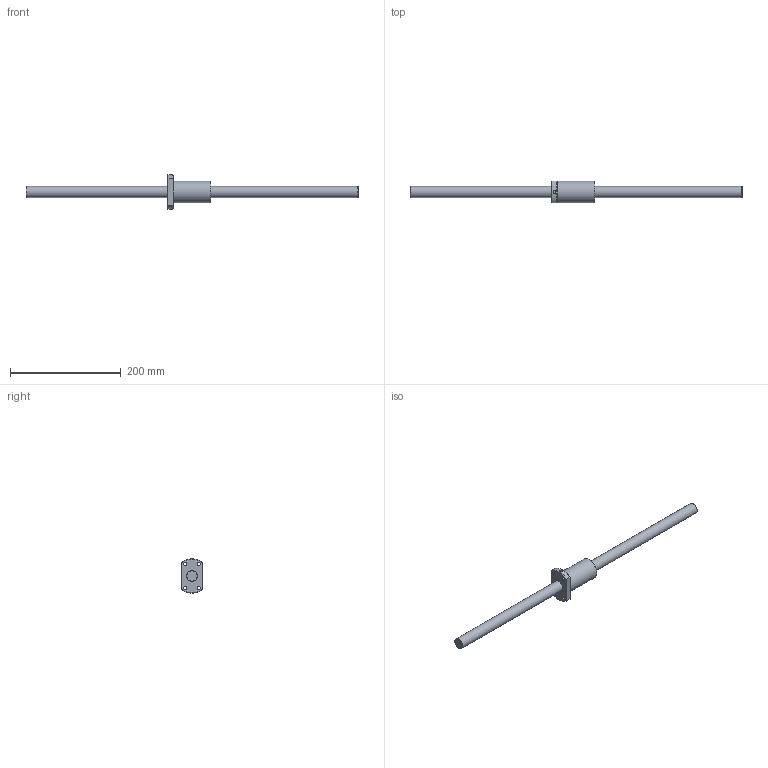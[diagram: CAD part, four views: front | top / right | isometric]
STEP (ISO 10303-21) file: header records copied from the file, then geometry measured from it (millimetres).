
FILE_DESCRIPTION((''),'2;1');
FILE_NAME('D:\製品 (図面)\カタログ用3D\ネジ関連\STEP形式\RBSDA\RBSDA2020-0600.stp','2010-06-02T14:40:15',('Tsuchiya'),(''),'Autodesk Inventor 10','Autodesk Inventor 10','');
FILE_SCHEMA(('AUTOMOTIVE_DESIGN { 1 0 10303 214 1 1 1 1 }'));
Length unit declared in the file: millimetre
Products named in the file (3): RBSDA2020-0600; RBSDA2020-06001; RBSDA2020-06002
Assembly tree (2 placements, depth 2):
  RBSDA2020-0600
    RBSDA2020-06001
    RBSDA2020-06002
Bounding box: 600 x 39 x 62 mm (x, y, z)
Volume: 266295.6 mm3; surface area: 57898.5 mm2
Topology: 2 solids, 2 shells, 25 faces, 63 edges, 42 vertices
Faces by surface type: cylinder 9, plane 8, cone 7, bspline 1
Full cylindrical faces by diameter (mm): 5.5 x4, 20 x2, 39 x1
Entity records: 891 total; most frequent: CARTESIAN_POINT 276, DIRECTION 120, ORIENTED_EDGE 94, AXIS2_PLACEMENT_3D 55, EDGE_LOOP 48, EDGE_CURVE 47, VERTEX_POINT 37, CIRCLE 26
